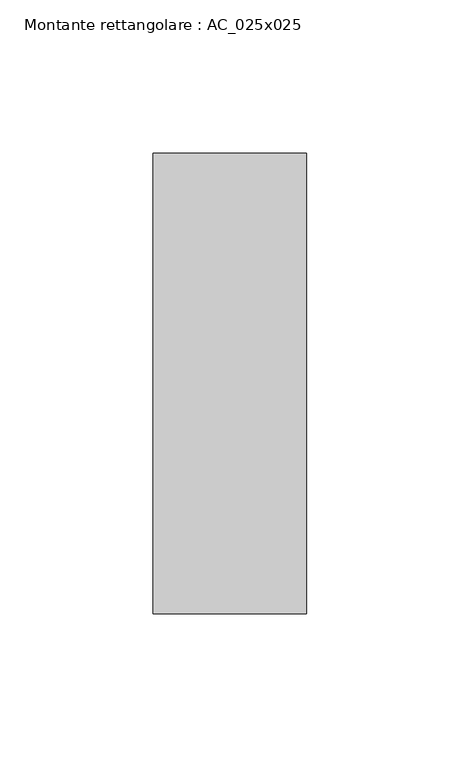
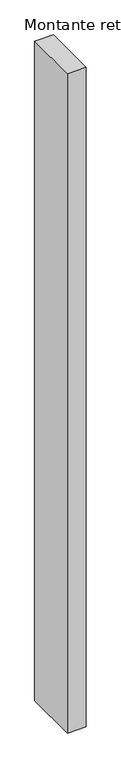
"""IFC4 building model written with IfcOpenShell, lengths in millimetres: member geometry, Montante rettangolare : AC_025x025."""

from ifc_helpers import new_model, si_unit, frame, origin, place, context, project, spatial, polyline, outline, extrude, source, transform, mapped, element, save


def montante_rettangolare_ac_025x025_28f09506(model_context):
    return source(origin(), model_context, "Body", "SweptSolid", [
        extrude(outline(polyline([(25.0, 75.0), (25.0, -75.0), (-25.0, -75.0), (-25.0, 75.0), (25.0, 75.0)])), frame((0.0, 0.0, -1850.0), z_axis=(0.0, 0.0, 1.0), x_axis=(1.0, 0.0, 0.0)), (0.0, 0.0, 1.0), 1850.0),
    ])


if __name__ == "__main__":
    model = new_model("IFC4")
    model_context = context("Model", 3, world=origin())
    ifc_project = project(units=[si_unit("LENGTHUNIT", "METRE", prefix="MILLI")], contexts=[model_context])
    site = spatial("IfcSite", under=ifc_project)
    building = spatial("IfcBuilding", under=site)
    placement = place(None, origin())
    montante_rettangolare_ac_025x025_shape = montante_rettangolare_ac_025x025_28f09506(model_context)
    element("IfcMember", 1, ObjectType="Montante rettangolare : AC_025x025", at=placement, inside=building, context=model_context, shape_type="MappedRepresentation", body=[
        mapped(montante_rettangolare_ac_025x025_shape, transform((0.0, 0.0, 0.0), x_axis=(1.0, 0.0, 0.0), y_axis=(0.0, 1.0, 0.0), z_axis=(0.0, 0.0, 1.0))),
    ])
    save(model, "model.ifc")
